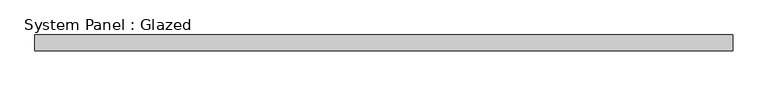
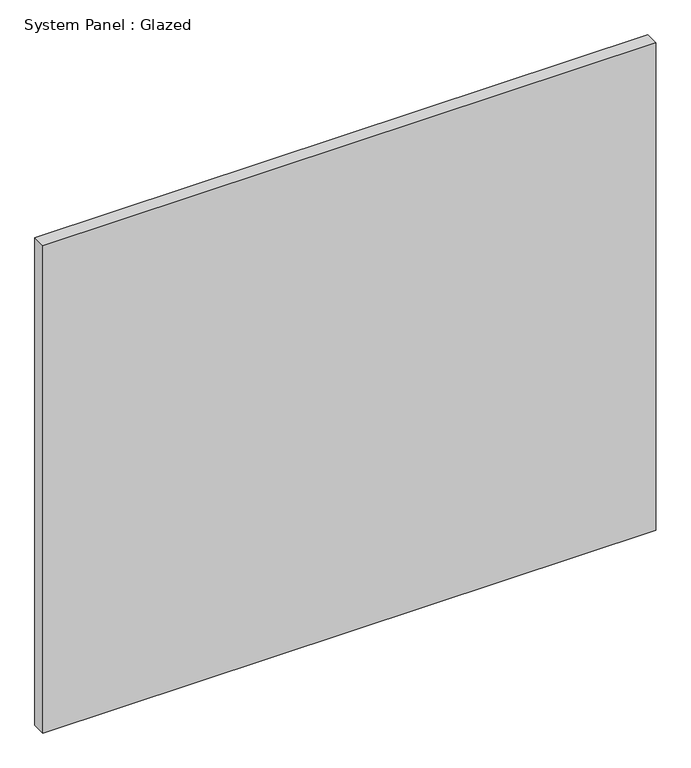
"""IFC4 building model written with IfcOpenShell, lengths in millimetres: plate geometry, System Panel : Glazed."""

import ifcopenshell
import ifcopenshell.guid

model = None  # the IFC model being written
_history = None  # IfcOwnerHistory: only IFC2X3 demands one
_inside = {}  # id of a spatial element -> (the spatial element, [elements in it])
_under = {}  # id of a project, library or spatial element -> (it, [spatial elements below it])
_declared = {}  # id of a project -> (the project, [libraries it declares])
_typed = {}  # id of a type object -> (the type object, [elements of that type])
_made_of = {}  # id of a material, layer set ... -> (it, [elements and type objects made of it])


def new_model(schema):
    """Start an empty IFC model of exactly this schema.

    Asked for "IFC4X3", IfcOpenShell would pick the latest addendum, in which some entities
    have other attributes; the version numbers below select the first issue.
    IFC2X3 requires an IfcOwnerHistory on every rooted entity: one is made here for all.
    """
    global model, _history
    if schema == "IFC4X3":
        model = ifcopenshell.file(schema_version=(4, 3, 0, 0))
    else:
        model = ifcopenshell.file(schema=schema)
    _inside.clear()
    _under.clear()
    _declared.clear()
    _typed.clear()
    _made_of.clear()
    _history = None
    if model.schema == "IFC2X3":
        org = make("IfcOrganization", Name="unknown")
        user = make(
            "IfcPersonAndOrganization",
            ThePerson=make("IfcPerson", FamilyName="unknown"),
            TheOrganization=org,
        )
        app = make(
            "IfcApplication",
            ApplicationDeveloper=org,
            Version="unknown",
            ApplicationFullName="unknown",
            ApplicationIdentifier="unknown",
        )
        _history = make(
            "IfcOwnerHistory",
            OwningUser=user,
            OwningApplication=app,
            ChangeAction="ADDED",
            CreationDate=0,
        )
    return model


def make(cls, **values):
    """One entity of the class cls with the attributes given. An attribute that is None is left unset."""
    return model.create_entity(
        cls, **{name: value for name, value in values.items() if value is not None}
    )


def rooted(cls, **values):
    """An entity with a GlobalId (a new one), such as an element, a storey or a relation."""
    return make(cls, GlobalId=ifcopenshell.guid.new(), OwnerHistory=_history, **values)


def si_unit(unit_type, name, prefix=None):
    """IfcSIUnit, for example si_unit("LENGTHUNIT", "METRE", prefix="MILLI")."""
    return make("IfcSIUnit", UnitType=unit_type, Prefix=prefix, Name=name)


def assignment(units):
    """IfcUnitAssignment: the units of a project."""
    return None if units is None else make("IfcUnitAssignment", Units=units)


def point(xyz):
    """IfcCartesianPoint."""
    return None if xyz is None else make("IfcCartesianPoint", Coordinates=xyz)


def direction(xyz):
    """IfcDirection."""
    return None if xyz is None else make("IfcDirection", DirectionRatios=xyz)


def frame(location, z_axis=None, x_axis=None):
    """IfcAxis2Placement3D, a coordinate frame: its origin and axes. An axis left out is left unset."""
    return make(
        "IfcAxis2Placement3D",
        Location=point(location),
        Axis=direction(z_axis),
        RefDirection=direction(x_axis),
    )


def origin():
    """The frame at (0, 0, 0) with its axes left unset."""
    return frame((0.0, 0.0, 0.0))


def origin_with_axes():
    """The frame at (0, 0, 0) with the z axis (0, 0, 1) and the x axis (1, 0, 0) written out."""
    return frame((0.0, 0.0, 0.0), z_axis=(0.0, 0.0, 1.0), x_axis=(1.0, 0.0, 0.0))


def place(relative_to, where):
    """IfcLocalPlacement: puts the frame where relative to a parent placement (None: the world)."""
    return make(
        "IfcLocalPlacement", PlacementRelTo=relative_to, RelativePlacement=where
    )


def context(
    kind, dimensions, precision=None, world=None, true_north=None, identifier=None
):
    """IfcGeometricRepresentationContext, for example the 3D "Model" context."""
    return make(
        "IfcGeometricRepresentationContext",
        ContextIdentifier=identifier,
        ContextType=kind,
        CoordinateSpaceDimension=dimensions,
        Precision=precision,
        WorldCoordinateSystem=world,
        TrueNorth=true_north,
    )


def project(units=None, contexts=None):
    """IfcProject with its units and contexts."""
    return rooted(
        "IfcProject",
        Name="project",
        RepresentationContexts=contexts,
        UnitsInContext=assignment(units),
    )


def spatial(cls, under=None, at=None, **own):
    """A site, building, storey or space (cls), placed at a placement, below another one or the project."""
    s = rooted(cls, ObjectPlacement=at, **own)
    if under is not None:
        _under.setdefault(under.id(), (under, []))[1].append(s)
    return s


def polyline(points):
    """IfcPolyline through the points."""
    return make("IfcPolyline", Points=[point(p) for p in points])


def outline(outer, holes=None, kind="AREA"):
    """IfcArbitraryClosedProfileDef: a profile drawn as a closed curve; with holes, ...WithVoids."""
    if holes is None:
        return make("IfcArbitraryClosedProfileDef", ProfileType=kind, OuterCurve=outer)
    return make(
        "IfcArbitraryProfileDefWithVoids",
        ProfileType=kind,
        OuterCurve=outer,
        InnerCurves=holes,
    )


def extrude(swept, where, along, depth):
    """IfcExtrudedAreaSolid: the profile swept, set in the frame where, extruded along a direction by depth."""
    return make(
        "IfcExtrudedAreaSolid",
        SweptArea=swept,
        Position=where,
        ExtrudedDirection=direction(along),
        Depth=depth,
    )


def shape(context_of_items, identifier, shape_type, items):
    """IfcShapeRepresentation: the items that make up one representation, for example the "Body"."""
    return make(
        "IfcShapeRepresentation",
        ContextOfItems=context_of_items,
        RepresentationIdentifier=identifier,
        RepresentationType=shape_type,
        Items=items,
    )


def source(mapping_origin, context_of_items, identifier, shape_type, items):
    """IfcRepresentationMap: a shape defined once, which mapped items show again and again."""
    return make(
        "IfcRepresentationMap",
        MappingOrigin=mapping_origin,
        MappedRepresentation=shape(context_of_items, identifier, shape_type, items),
    )


def transform(
    local_origin,
    x_axis=None,
    y_axis=None,
    z_axis=None,
    scale=None,
    scale2=None,
    scale3=None,
    uniform=True,
):
    """IfcCartesianTransformationOperator3D, or its non-uniform kind. x_axis, y_axis, z_axis: its Axis1, 2, 3."""
    if uniform:
        return make(
            "IfcCartesianTransformationOperator3D",
            Axis1=direction(x_axis),
            Axis2=direction(y_axis),
            LocalOrigin=point(local_origin),
            Scale=scale,
            Axis3=direction(z_axis),
        )
    return make(
        "IfcCartesianTransformationOperator3DnonUniform",
        Axis1=direction(x_axis),
        Axis2=direction(y_axis),
        LocalOrigin=point(local_origin),
        Scale=scale,
        Axis3=direction(z_axis),
        Scale2=scale2,
        Scale3=scale3,
    )


def mapped(mapping_source, mapping_target):
    """IfcMappedItem: shows the shape of a source again, moved by a transform."""
    return make(
        "IfcMappedItem", MappingSource=mapping_source, MappingTarget=mapping_target
    )


def made_of(thing, what):
    """Note that an element or type object is made of a material, layer set ...; save() writes the relation."""
    if what is not None:
        _made_of.setdefault(what.id(), (what, []))[1].append(thing)
    return thing


def element(
    cls,
    number,
    at=None,
    inside=None,
    cuts=None,
    type_object=None,
    material=None,
    context=None,
    identifier="Body",
    shape_type=None,
    held_by="IfcProductDefinitionShape",
    body=None,
    shapes=None,
    **own,
):
    """One element of the class cls, such as IfcWall. Its Tag is "e" and its number.

    at: its placement. inside: the storey or other place that contains it. cuts: it is an
    opening in that element (IfcRelVoidsElement). A single representation is given by context,
    identifier, shape_type and body (its items); several are given by shapes. held_by: the class
    of the entity that holds the representations. save() writes the other relations.
    """
    e = rooted(cls, Tag="e%d" % number, ObjectPlacement=at, **own)
    if body is not None:
        shapes = [shape(context, identifier, shape_type, body)]
    if shapes is not None:
        e.Representation = make(held_by, Representations=shapes)
    if inside is not None:
        _inside.setdefault(inside.id(), (inside, []))[1].append(e)
    if cuts is not None:
        rooted(
            "IfcRelVoidsElement", RelatingBuildingElement=cuts, RelatedOpeningElement=e
        )
    if type_object is not None:
        _typed.setdefault(type_object.id(), (type_object, []))[1].append(e)
    return made_of(e, material)


def aggregate(whole, parts):
    """IfcRelAggregates: a whole, such as a stair, and the parts it consists of."""
    return rooted("IfcRelAggregates", RelatingObject=whole, RelatedObjects=parts)


def save(model, path):
    """Write the relations noted so far, then the file.

    IfcRelAggregates (storeys below a building ...), IfcRelContainedInSpatialStructure (elements
    in a storey), IfcRelDefinesByType, IfcRelAssociatesMaterial and IfcRelDeclares: one each for
    every whole, place, type object, material and project.
    """
    for whole, parts in _under.values():
        aggregate(whole, parts)
    for where, things in _inside.values():
        rooted(
            "IfcRelContainedInSpatialStructure",
            RelatedElements=things,
            RelatingStructure=where,
        )
    for kind, things in _typed.values():
        rooted("IfcRelDefinesByType", RelatedObjects=things, RelatingType=kind)
    for what, things in _made_of.values():
        rooted("IfcRelAssociatesMaterial", RelatedObjects=things, RelatingMaterial=what)
    for by, libraries in _declared.values():
        rooted("IfcRelDeclares", RelatingContext=by, RelatedDefinitions=libraries)
    model.write(path)


def system_panel_glazed_de414a09(model_context):
    return source(origin(), model_context, "Body", "SweptSolid", [
        extrude(outline(polyline([(550.0000001, 24.5), (-550.0000001, 24.5), (-550.0000001, 49.5), (550.0000001, 49.5), (550.0000001, 24.5)])), origin_with_axes(), (0.0, 0.0, 1.0), 925.0),
    ])


if __name__ == "__main__":
    model = new_model("IFC4")
    model_context = context("Model", 3, world=origin())
    ifc_project = project(units=[si_unit("LENGTHUNIT", "METRE", prefix="MILLI")], contexts=[model_context])
    site = spatial("IfcSite", under=ifc_project)
    building = spatial("IfcBuilding", under=site)
    placement = place(None, origin())
    system_panel_glazed_shape = system_panel_glazed_de414a09(model_context)
    element("IfcPlate", 1, ObjectType="System Panel : Glazed", at=placement, inside=building, context=model_context, shape_type="MappedRepresentation", body=[
        mapped(system_panel_glazed_shape, transform((0.0, 0.0, 0.0), x_axis=(1.0, 0.0, 0.0), y_axis=(0.0, 1.0, 0.0), z_axis=(0.0, 0.0, 1.0))),
    ])
    save(model, "model.ifc")
